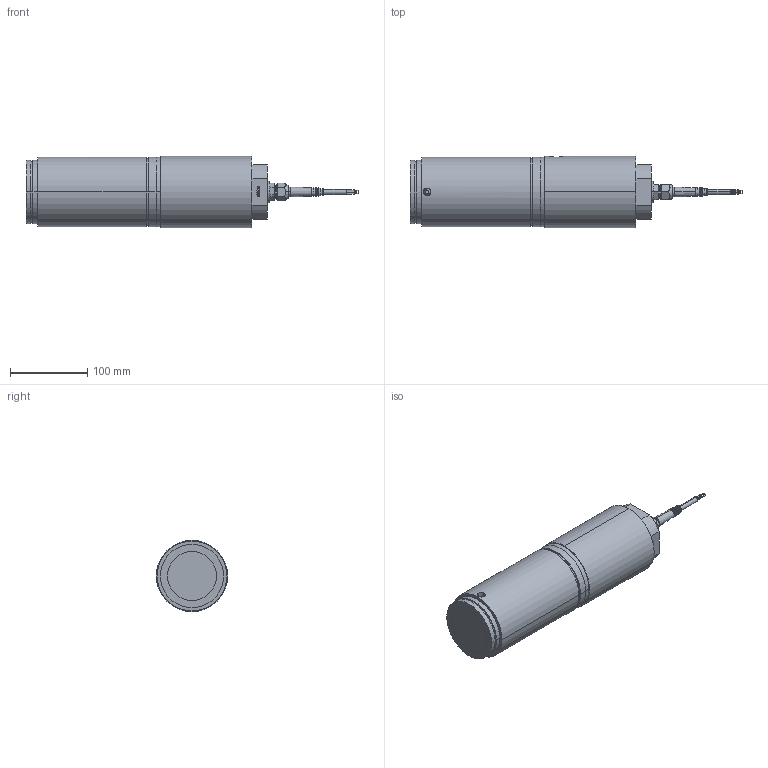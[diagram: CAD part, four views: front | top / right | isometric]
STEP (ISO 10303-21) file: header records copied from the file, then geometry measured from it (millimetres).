
FILE_DESCRIPTION (( 'STEP AP214' ), '1' );
FILE_NAME ('KIS-1 100 kN Load Cell.STEP', '2021-06-30T13:39:04', ( '' ), ( '' ), 'SwSTEP 2.0', 'SolidWorks 2021', '' );
FILE_SCHEMA (( 'AUTOMOTIVE_DESIGN' ));
Length unit declared in the file: millimetre
Products named in the file (8): M26x1.5 - Pg9 - 6369829; 5196892r1; Standardkabel 4-Cond PVC; Tätning Hylsa Silikon^1157653 - KIS-1 100kN - Rostfri; 4095994r3; KIS-1 100 kN Load Cell; Pg9 - 1009.52 6_2_14; Wiberger-frp_8x20
Assembly tree (7 placements, depth 2):
  KIS-1 100 kN Load Cell
    4095994r3
    5196892r1
    Tätning Hylsa Silikon^1157653 - KIS-1 100kN - Rostfri
    Pg9 - 1009.52 6_2_14
    Standardkabel 4-Cond PVC
    Wiberger-frp_8x20
    M26x1.5 - Pg9 - 6369829
Bounding box: 429 x 92 x 92 mm (x, y, z)
Volume: 1933633 mm3; surface area: 194615.7 mm2
Topology: 7 solids, 10 shells, 437 faces, 1063 edges, 689 vertices
Faces by surface type: plane 206, cylinder 115, cone 55, bspline 49, torus 12
Entity records: 22188 total; most frequent: CARTESIAN_POINT 9305, ORIENTED_EDGE 2122, DIRECTION 1947, EDGE_CURVE 1061, VERTEX_POINT 689, AXIS2_PLACEMENT_3D 679, VECTOR 589, LINE 589
